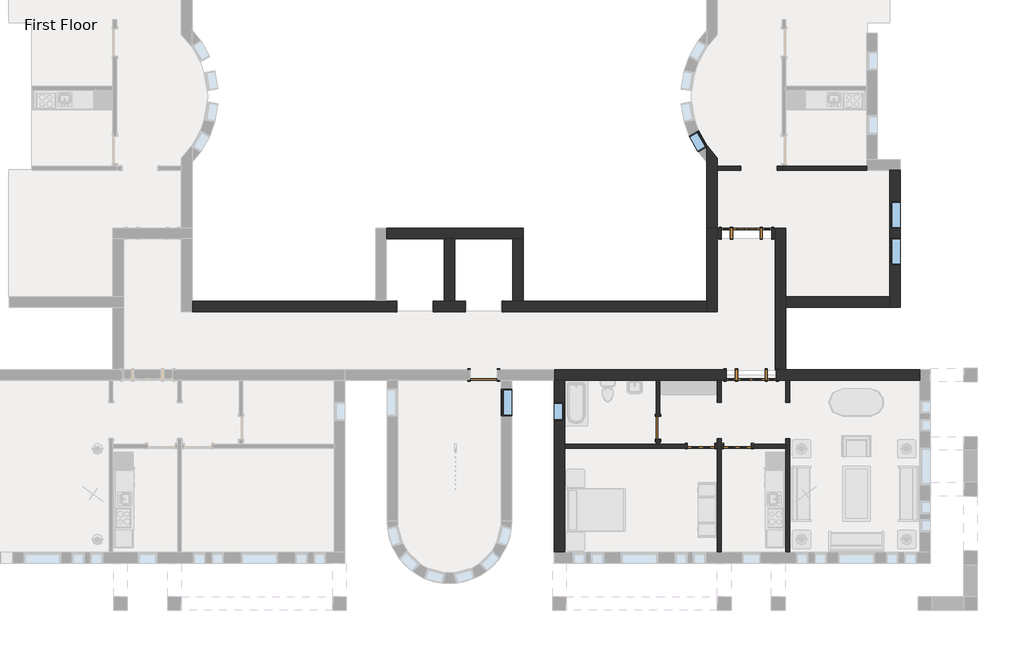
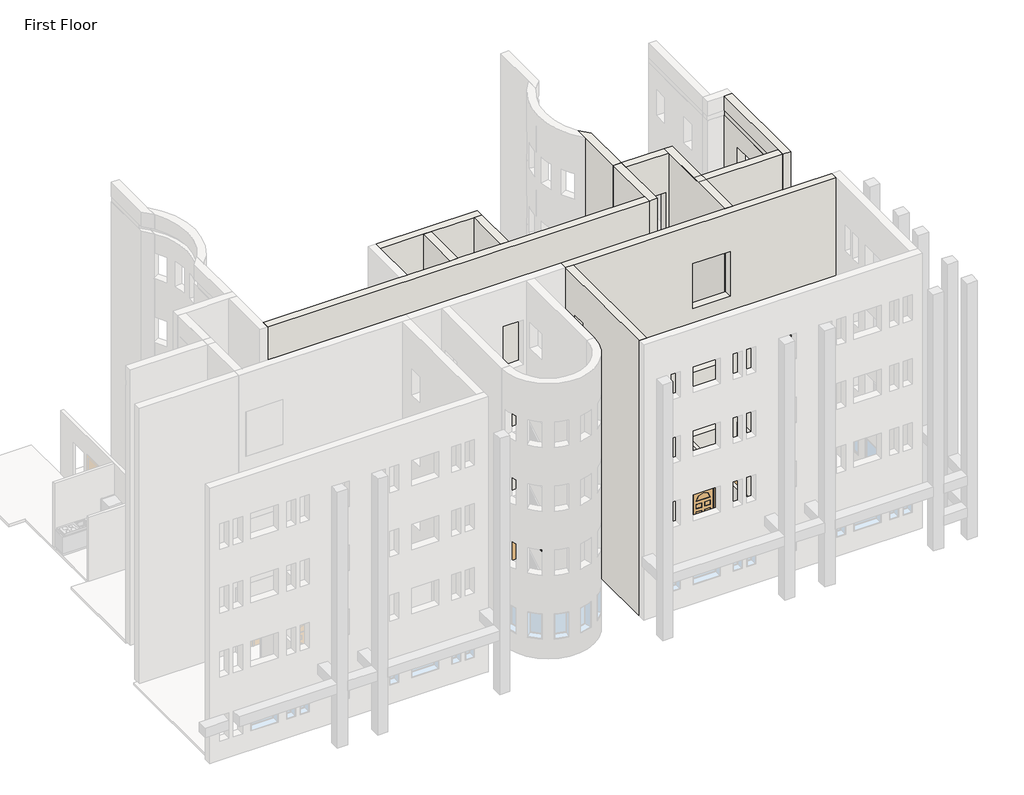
# One storey, part 6 of 23: 20 walls, 6 doors, 5 windows.
"""IFC4 building model written with IfcOpenShell, lengths in millimetres."""

from ifc_helpers import new_model, si_unit, frame, origin, origin_with_axes, place, context, project, spatial, polyline, circle_curve, outline, extrude, faceted_brep, transform, mapped, element, save
from ifc_brep_helpers import plane_surface, revolved_surface, advanced_brep
from components import door_829da954, door_2e3b4da2, door_e36758a9, door_cc5399a4, door_dba5aa2e, door_ffdb1193, window_ed80354a, window_15c49d37, window_0e2fc6ce

model = new_model("IFC4")

# Units and contexts
model_context = context("Model", 3, world=origin())
ifc_project = project(units=[si_unit("LENGTHUNIT", "METRE", prefix="MILLI")], contexts=[model_context])

# Site, building, storey
site = spatial("IfcSite", under=ifc_project)
building = spatial("IfcBuilding", under=site)
storey = spatial("IfcBuildingStorey", under=building, Name="First Floor", Elevation=0.0)

# Doors
placement = place(None, origin())
door_shape = door_829da954(model_context)
element("IfcDoor", 1, ObjectType="Single-Decorative 2 : 36\" x 84\"", at=placement, inside=storey, context=model_context, shape_type="MappedRepresentation", body=[
    mapped(door_shape, transform((-6669.0589563, -30331.8808133, 0.0), x_axis=(1.0, 0.0, 0.0), y_axis=(0.0, 1.0, 0.0), z_axis=(0.0, 0.0, 1.0))),
])
door_2_shape = door_2e3b4da2(model_context)
element("IfcDoor", 2, ObjectType="Single-Decorative 2 : 36\" x 84\"", at=placement, inside=storey, context=model_context, shape_type="MappedRepresentation", body=[
    mapped(door_2_shape, transform((-5449.8589563, -30331.8808133, 0.0), x_axis=(-1.0, 0.0, 0.0), y_axis=(0.0, -1.0, 0.0), z_axis=(0.0, 0.0, 1.0))),
])
door_3_shape = door_e36758a9(model_context)
element("IfcDoor", 3, ObjectType="Single-Flush : 30\" x 84\"", at=placement, inside=storey, context=model_context, shape_type="MappedRepresentation", body=[
    mapped(door_3_shape, transform((-8105.7464563, -29722.2808133, 0.0), x_axis=(0.0, -1.0, 0.0), y_axis=(1.0, 0.0, 0.0), z_axis=(0.0, 0.0, 1.0))),
])
door_4_shape = door_cc5399a4(model_context)
element("IfcDoor", 4, ObjectType="Single-Flush : 36\" x 84\"", at=placement, inside=storey, context=model_context, shape_type="MappedRepresentation", body=[
    mapped(door_4_shape, transform((-13919.1714563, -27958.5683133, 0.0), x_axis=(1.0, 0.0, 0.0), y_axis=(0.0, 1.0, 0.0), z_axis=(0.0, 0.0, 1.0))),
])
door_5_shape = door_dba5aa2e(model_context)
element("IfcDoor", 5, ObjectType="Single-Raised Panel with Sidelights : 36\" x 84\"", at=placement, inside=storey, context=model_context, shape_type="MappedRepresentation", body=[
    mapped(door_5_shape, transform((-5156.1714563, -23234.1683133, 0.0), x_axis=(-1.0, 0.0, 0.0), y_axis=(0.0, -1.0, 0.0), z_axis=(0.0, 0.0, 1.0))),
])
door_6_shape = door_ffdb1193(model_context)
element("IfcDoor", 6, ObjectType="Single-Raised Panel with Sidelights : 36\" x 84\"", at=placement, inside=storey, context=model_context, shape_type="MappedRepresentation", body=[
    mapped(door_6_shape, transform((-4992.6589563, -27958.5683133, 0.0), x_axis=(-1.0, 0.0, 0.0), y_axis=(0.0, -1.0, 0.0), z_axis=(0.0, 0.0, 1.0))),
])

# Walls
element("IfcWall", 7, ObjectType="Exterior - Brick on Mtl. Stud", at=placement, inside=storey, context=model_context, shape_type="Brep", body=[
    faceted_brep([(-5830.8589563, -27782.3558133, 2133.6), (-5830.8589563, -27782.3558133, 0.0), (-11571.2589563, -27782.3558133, 0.0), (-11571.2589563, -27782.3558133, 13106.4), (-4189.3839563, -27782.3558133, 13106.4), (-3836.9589563, -27782.3558133, 13106.4), (622.3285437, -27782.3558133, 13106.4), (622.3285437, -27782.3558133, 0.0), (-3836.9589563, -27782.3558133, 0.0), (-4154.4589563, -27782.3558133, 0.0), (-4154.4589563, -27782.3558133, 2133.6), (-4154.4589563, -27782.3558133, 6096.0), (-4154.4589563, -27782.3558133, 8229.6), (-5830.8589563, -27782.3558133, 8229.6), (-5830.8589563, -27782.3558133, 6096.0), (-4154.4589563, -27782.3558133, 3048.0), (-4154.4589563, -27782.3558133, 5181.6), (-5830.8589563, -27782.3558133, 5181.6), (-5830.8589563, -27782.3558133, 3048.0), (-4154.4589563, -27782.3558133, 9144.0), (-4154.4589563, -27782.3558133, 11277.6), (-5830.8589563, -27782.3558133, 11277.6), (-5830.8589563, -27782.3558133, 9144.0), (-11571.2589563, -28134.7808133, 0.0), (-11569.6714563, -28134.7808133, 0.0), (-11217.2464563, -28134.7808133, 0.0), (-8169.2464563, -28134.7808133, 0.0), (-8042.2464563, -28134.7808133, 0.0), (-6122.9589563, -28134.7808133, 0.0), (-5995.9589563, -28134.7808133, 0.0), (-5830.8589563, -28134.7808133, 0.0), (-5830.8589563, -28134.7808133, 2133.6), (-4154.4589563, -28134.7808133, 2133.6), (-4154.4589563, -28134.7808133, 0.0), (-3836.9589563, -28134.7808133, 0.0), (-3709.9589563, -28134.7808133, 0.0), (622.3285437, -28134.7808133, 0.0), (622.3285437, -28134.7808133, 13106.4), (-11217.2464563, -28134.7808133, 13106.4), (-11569.6714563, -28134.7808133, 13106.4), (-11571.2589563, -28134.7808133, 13106.4), (-4154.4589563, -28134.7808133, 6096.0), (-5830.8589563, -28134.7808133, 6096.0), (-5830.8589563, -28134.7808133, 8229.6), (-4154.4589563, -28134.7808133, 8229.6), (-4154.4589563, -28134.7808133, 3048.0), (-5830.8589563, -28134.7808133, 3048.0), (-5830.8589563, -28134.7808133, 5181.6), (-4154.4589563, -28134.7808133, 5181.6), (-4154.4589563, -28134.7808133, 9144.0), (-5830.8589563, -28134.7808133, 9144.0), (-5830.8589563, -28134.7808133, 11277.6), (-4154.4589563, -28134.7808133, 11277.6)], [[[0, 1, 2, 3, 4, 5, 6, 7, 8, 9, 10], [11, 12, 13, 14], [15, 16, 17, 18], [19, 20, 21, 22]], [[23, 24, 25, 26, 27, 28, 29, 30, 31, 32, 33, 34, 35, 36, 37, 38, 39, 40], [41, 42, 43, 44], [45, 46, 47, 48], [49, 50, 51, 52]], [[2, 1, 30, 29, 28, 27, 26, 25, 24, 23]], [[9, 8, 7, 36, 35, 34, 33]], [[3, 2, 23, 40]], [[6, 5, 4, 3, 40, 39, 38, 37]], [[7, 6, 37, 36]], [[31, 30, 1, 0]], [[32, 31, 0, 10]], [[33, 32, 10, 9]], [[42, 41, 11, 14]], [[43, 42, 14, 13]], [[44, 43, 13, 12]], [[41, 44, 12, 11]], [[46, 45, 15, 18]], [[47, 46, 18, 17]], [[48, 47, 17, 16]], [[45, 48, 16, 15]], [[50, 49, 19, 22]], [[51, 50, 22, 21]], [[52, 51, 21, 20]], [[49, 52, 20, 19]]]),
])
element("IfcWall", 8, ObjectType="Exterior - Brick on Mtl. Stud", at=placement, inside=storey, context=model_context, shape_type="Brep", body=[
    faceted_brep([(-11569.6714563, -28134.7808133, 0.0), (-11569.6714563, -33878.3558133, 0.0), (-11569.6714563, -33878.3558133, 13106.4), (-11569.6714563, -28134.7808133, 13106.4), (-11569.6714563, -28872.9683133, 8229.6), (-11569.6714563, -29482.5683133, 8229.6), (-11569.6714563, -29482.5683133, 7010.4), (-11569.6714563, -28872.9683133, 7010.4), (-11569.6714563, -28872.9683133, 5181.6), (-11569.6714563, -29482.5683133, 5181.6), (-11569.6714563, -29482.5683133, 3962.4), (-11569.6714563, -28872.9683133, 3962.4), (-11569.6714563, -28872.9683133, 11277.6), (-11569.6714563, -29482.5683133, 11277.6), (-11569.6714563, -29482.5683133, 10058.4), (-11569.6714563, -28872.9683133, 10058.4), (-11569.6714563, -28872.9683133, 2133.6), (-11569.6714563, -29482.5683133, 2133.6), (-11569.6714563, -29482.5683133, 914.4), (-11569.6714563, -28872.9683133, 914.4), (-11217.2464563, -28134.7808133, 0.0), (-11217.2464563, -28134.7808133, 13106.4), (-11217.2464563, -33878.3558133, 13106.4), (-11217.2464563, -33878.3558133, 0.0), (-11217.2464563, -30395.3808133, 0.0), (-11217.2464563, -30268.3808133, 0.0), (-11217.2464563, -28872.9683133, 8229.6), (-11217.2464563, -28872.9683133, 7010.4), (-11217.2464563, -29482.5683133, 7010.4), (-11217.2464563, -29482.5683133, 8229.6), (-11217.2464563, -28872.9683133, 5181.6), (-11217.2464563, -28872.9683133, 3962.4), (-11217.2464563, -29482.5683133, 3962.4), (-11217.2464563, -29482.5683133, 5181.6), (-11217.2464563, -28872.9683133, 11277.6), (-11217.2464563, -28872.9683133, 10058.4), (-11217.2464563, -29482.5683133, 10058.4), (-11217.2464563, -29482.5683133, 11277.6), (-11217.2464563, -28872.9683133, 2133.6), (-11217.2464563, -28872.9683133, 914.4), (-11217.2464563, -29482.5683133, 914.4), (-11217.2464563, -29482.5683133, 2133.6), (-11382.3464563, -28134.7808133, 0.0), (-11382.3464563, -33878.3558133, 0.0)], [[[0, 1, 2, 3], [4, 5, 6, 7], [8, 9, 10, 11], [12, 13, 14, 15], [16, 17, 18, 19]], [[20, 21, 22, 23, 24, 25], [26, 27, 28, 29], [30, 31, 32, 33], [34, 35, 36, 37], [38, 39, 40, 41]], [[3, 2, 22, 21]], [[0, 3, 21, 20, 42]], [[2, 1, 43, 23, 22]], [[1, 0, 42, 43]], [[42, 20, 25, 24, 23, 43]], [[27, 26, 4, 7]], [[28, 27, 7, 6]], [[29, 28, 6, 5]], [[26, 29, 5, 4]], [[31, 30, 8, 11]], [[32, 31, 11, 10]], [[33, 32, 10, 9]], [[30, 33, 9, 8]], [[35, 34, 12, 15]], [[36, 35, 15, 14]], [[37, 36, 14, 13]], [[34, 37, 13, 12]], [[39, 38, 16, 19]], [[40, 39, 19, 18]], [[41, 40, 18, 17]], [[38, 41, 17, 16]]]),
])
element("IfcWall", 9, ObjectType="Exterior - Brick on Mtl. Stud", at=placement, inside=storey, context=model_context, shape_type="Brep", body=[
    faceted_brep([(-17171.9589563, -23410.3808133, 0.0), (-15238.3839563, -23410.3808133, 0.0), (-14885.9589563, -23410.3808133, 0.0), (-12952.3839563, -23410.3808133, 0.0), (-12599.9589563, -23410.3808133, 0.0), (-12599.9589563, -23410.3808133, 13106.4), (-12952.3839563, -23410.3808133, 13106.4), (-14885.9589563, -23410.3808133, 13106.4), (-15238.3839563, -23410.3808133, 13106.4), (-17171.9589563, -23410.3808133, 13106.4), (-17171.9589563, -23057.9558133, 0.0), (-17171.9589563, -23057.9558133, 13106.4), (-12599.9589563, -23057.9558133, 13106.4), (-12599.9589563, -23057.9558133, 0.0)], [[[0, 1, 2, 3, 4, 5, 6, 7, 8, 9]], [[10, 11, 12, 13]], [[4, 3, 2, 1, 0, 10, 13]], [[9, 8, 7, 6, 5, 12, 11]], [[5, 4, 13, 12]], [[0, 9, 11, 10]]]),
])
element("IfcWall", 10, ObjectType="Exterior - Brick on Mtl. Stud", at=placement, inside=storey, context=model_context, shape_type="SweptSolid", body=[
    extrude(outline(polyline([(-12952.3839563, -25496.3558133), (-12952.3839563, -23410.3808133), (-12599.9589563, -23410.3808133), (-12599.9589563, -25496.3558133), (-12952.3839563, -25496.3558133)])), origin_with_axes(), (0.0, 0.0, 1.0), 13106.4),
])
element("IfcWall", 11, ObjectType="Exterior - Brick on Mtl. Stud", at=placement, inside=storey, context=model_context, shape_type="Brep", body=[
    faceted_brep([(-15595.5714563, -25848.7808133, 0.0), (-14528.7714563, -25848.7808133, 0.0), (-14528.7714563, -25848.7808133, 2133.6), (-13309.5714563, -25848.7808133, 2133.6), (-13309.5714563, -25848.7808133, 0.0), (-6475.3839563, -25848.7808133, 0.0), (-6475.3839563, -25848.7808133, 13106.4), (-23648.9589563, -25848.7808133, 13106.4), (-23648.9589563, -25848.7808133, 0.0), (-16814.7714563, -25848.7808133, 0.0), (-16814.7714563, -25848.7808133, 2133.6), (-15595.5714563, -25848.7808133, 2133.6), (-13309.5714563, -25848.7808133, 8229.6), (-13309.5714563, -25848.7808133, 6096.0), (-14528.7714563, -25848.7808133, 6096.0), (-14528.7714563, -25848.7808133, 8229.6), (-15595.5714563, -25848.7808133, 8229.6), (-15595.5714563, -25848.7808133, 6096.0), (-16814.7714563, -25848.7808133, 6096.0), (-16814.7714563, -25848.7808133, 8229.6), (-13309.5714563, -25848.7808133, 5181.6), (-13309.5714563, -25848.7808133, 3048.0), (-14528.7714563, -25848.7808133, 3048.0), (-14528.7714563, -25848.7808133, 5181.6), (-15595.5714563, -25848.7808133, 5181.6), (-15595.5714563, -25848.7808133, 3048.0), (-16814.7714563, -25848.7808133, 3048.0), (-16814.7714563, -25848.7808133, 5181.6), (-13309.5714563, -25848.7808133, 11277.6), (-13309.5714563, -25848.7808133, 9144.0), (-14528.7714563, -25848.7808133, 9144.0), (-14528.7714563, -25848.7808133, 11277.6), (-15595.5714563, -25848.7808133, 11277.6), (-15595.5714563, -25848.7808133, 9144.0), (-16814.7714563, -25848.7808133, 9144.0), (-16814.7714563, -25848.7808133, 11277.6), (-14528.7714563, -25496.3558133, 2133.6), (-14528.7714563, -25496.3558133, 0.0), (-14885.9589563, -25496.3558133, 0.0), (-15238.3839563, -25496.3558133, 0.0), (-15595.5714563, -25496.3558133, 0.0), (-15595.5714563, -25496.3558133, 2133.6), (-16814.7714563, -25496.3558133, 2133.6), (-16814.7714563, -25496.3558133, 0.0), (-17171.9589563, -25496.3558133, 0.0), (-17524.3839563, -25496.3558133, 0.0), (-23648.9589563, -25496.3558133, 0.0), (-23648.9589563, -25496.3558133, 13106.4), (-17524.3839563, -25496.3558133, 13106.4), (-17171.9589563, -25496.3558133, 13106.4), (-15238.3839563, -25496.3558133, 13106.4), (-14885.9589563, -25496.3558133, 13106.4), (-12952.3839563, -25496.3558133, 13106.4), (-12599.9589563, -25496.3558133, 13106.4), (-6475.3839563, -25496.3558133, 13106.4), (-6475.3839563, -25496.3558133, 0.0), (-12599.9589563, -25496.3558133, 0.0), (-12952.3839563, -25496.3558133, 0.0), (-13309.5714563, -25496.3558133, 0.0), (-13309.5714563, -25496.3558133, 2133.6), (-13309.5714563, -25496.3558133, 8229.6), (-14528.7714563, -25496.3558133, 8229.6), (-14528.7714563, -25496.3558133, 6096.0), (-13309.5714563, -25496.3558133, 6096.0), (-15595.5714563, -25496.3558133, 8229.6), (-16814.7714563, -25496.3558133, 8229.6), (-16814.7714563, -25496.3558133, 6096.0), (-15595.5714563, -25496.3558133, 6096.0), (-13309.5714563, -25496.3558133, 5181.6), (-14528.7714563, -25496.3558133, 5181.6), (-14528.7714563, -25496.3558133, 3048.0), (-13309.5714563, -25496.3558133, 3048.0), (-15595.5714563, -25496.3558133, 5181.6), (-16814.7714563, -25496.3558133, 5181.6), (-16814.7714563, -25496.3558133, 3048.0), (-15595.5714563, -25496.3558133, 3048.0), (-13309.5714563, -25496.3558133, 11277.6), (-14528.7714563, -25496.3558133, 11277.6), (-14528.7714563, -25496.3558133, 9144.0), (-13309.5714563, -25496.3558133, 9144.0), (-15595.5714563, -25496.3558133, 11277.6), (-16814.7714563, -25496.3558133, 11277.6), (-16814.7714563, -25496.3558133, 9144.0), (-15595.5714563, -25496.3558133, 9144.0)], [[[0, 1, 2, 3, 4, 5, 6, 7, 8, 9, 10, 11], [12, 13, 14, 15], [16, 17, 18, 19], [20, 21, 22, 23], [24, 25, 26, 27], [28, 29, 30, 31], [32, 33, 34, 35]], [[36, 37, 38, 39, 40, 41, 42, 43, 44, 45, 46, 47, 48, 49, 50, 51, 52, 53, 54, 55, 56, 57, 58, 59], [60, 61, 62, 63], [64, 65, 66, 67], [68, 69, 70, 71], [72, 73, 74, 75], [76, 77, 78, 79], [80, 81, 82, 83]], [[46, 45, 44, 43, 9, 8]], [[40, 39, 38, 37, 1, 0]], [[58, 57, 56, 55, 5, 4]], [[7, 6, 54, 53, 52, 51, 50, 49, 48, 47]], [[6, 5, 55, 54]], [[8, 7, 47, 46]], [[0, 11, 41, 40]], [[10, 9, 43, 42]], [[11, 10, 42, 41]], [[4, 3, 59, 58]], [[2, 1, 37, 36]], [[3, 2, 36, 59]], [[13, 12, 60, 63]], [[14, 13, 63, 62]], [[15, 14, 62, 61]], [[12, 15, 61, 60]], [[17, 16, 64, 67]], [[18, 17, 67, 66]], [[19, 18, 66, 65]], [[16, 19, 65, 64]], [[21, 20, 68, 71]], [[22, 21, 71, 70]], [[23, 22, 70, 69]], [[20, 23, 69, 68]], [[25, 24, 72, 75]], [[26, 25, 75, 74]], [[27, 26, 74, 73]], [[24, 27, 73, 72]], [[29, 28, 76, 79]], [[30, 29, 79, 78]], [[31, 30, 78, 77]], [[28, 31, 77, 76]], [[33, 32, 80, 83]], [[34, 33, 83, 82]], [[35, 34, 82, 81]], [[32, 35, 81, 80]]]),
])
element("IfcWall", 12, ObjectType="Exterior - Brick on Mtl. Stud", at=placement, inside=storey, context=model_context, shape_type="SweptSolid", body=[
    extrude(outline(polyline([(-15238.3839563, -25496.3558133), (-15238.3839563, -23410.3808133), (-14885.9589563, -23410.3808133), (-14885.9589563, -25496.3558133), (-15238.3839563, -25496.3558133)])), origin_with_axes(), (0.0, 0.0, 1.0), 13106.4),
])
element("IfcWall", 13, ObjectType="Exterior - Brick on Mtl. Stud", at=placement, inside=storey, context=model_context, shape_type="Brep", body=[
    faceted_brep([(-6122.9589563, -25848.7808133, 0.0), (-6122.9589563, -23410.3808133, 0.0), (-6122.9589563, -23057.9558133, 0.0), (-6122.9589563, -23057.9558133, 12192.0), (-6122.9589563, -23057.9558133, 12420.6), (-6122.9589563, -23057.9558133, 13106.4), (-6122.9589563, -23410.3808133, 13106.4), (-6122.9589563, -25848.7808133, 13106.4), (-6475.3839563, -25848.7808133, 0.0), (-6475.3839563, -25848.7808133, 13106.4), (-6475.3839563, -25496.3558133, 13106.4), (-6475.3839563, -23057.9558133, 13106.4), (-6475.3839563, -23057.9558133, 0.0), (-6475.3839563, -25496.3558133, 0.0)], [[[0, 1, 2, 3, 4, 5, 6, 7]], [[8, 9, 10, 11, 12, 13]], [[2, 1, 0, 8, 13, 12]], [[7, 6, 5, 11, 10, 9]], [[0, 7, 9, 8]], [[5, 4, 3, 2, 12, 11]]]),
])
element("IfcWall", 14, ObjectType="Exterior - Brick on Mtl. Stud", at=placement, inside=storey, context=model_context, shape_type="Brep", body=[
    faceted_brep([(-4189.3839563, -23057.9558133, 0.0), (-4189.3839563, -23410.3808133, 0.0), (-4189.3839563, -27782.3558133, 0.0), (-4189.3839563, -27782.3558133, 13106.4), (-4189.3839563, -23410.3808133, 13106.4), (-4189.3839563, -23057.9558133, 13106.4), (-4189.3839563, -23057.9558133, 12420.6), (-4189.3839563, -23057.9558133, 12192.0), (-3836.9589563, -23057.9558133, 0.0), (-3836.9589563, -23057.9558133, 13106.4), (-3836.9589563, -27782.3558133, 13106.4), (-3836.9589563, -27782.3558133, 0.0), (-4154.4589563, -27782.3558133, 0.0)], [[[0, 1, 2, 3, 4, 5, 6, 7]], [[8, 9, 10, 11]], [[2, 1, 0, 8, 11, 12]], [[5, 4, 3, 10, 9]], [[0, 7, 6, 5, 9, 8]], [[3, 2, 12, 11, 10]]]),
])
element("IfcWall", 15, ObjectType="Exterior - Brick on Mtl. Stud", at=placement, inside=storey, context=model_context, shape_type="Brep", body=[
    faceted_brep([(-379.3839563, -25343.9558133, 0.0), (-3836.9589563, -25343.9558133, 0.0), (-4189.3839563, -25343.9558133, 0.0), (-4189.3839563, -25343.9558133, 13106.4), (-3836.9589563, -25343.9558133, 13106.4), (-379.3839563, -25343.9558133, 13106.4), (-379.3839563, -25343.9558133, 12420.6), (-3836.9589563, -25343.9558133, 12420.6), (-3849.6589563, -25343.9558133, 12420.6), (-3849.6589563, -25343.9558133, 12192.0), (-3836.9589563, -25343.9558133, 12192.0), (-379.3839563, -25343.9558133, 12192.0), (-4189.3839563, -25696.3808133, 0.0), (-379.3839563, -25696.3808133, 0.0), (-379.3839563, -25696.3808133, 13106.4), (-4189.3839563, -25696.3808133, 13106.4), (-379.3839563, -25356.6558133, 12192.0), (-379.3839563, -25356.6558133, 12420.6), (-3849.6589563, -25356.6558133, 12192.0), (-3849.6589563, -25356.6558133, 12420.6)], [[[0, 1, 2, 3, 4, 5, 6, 7, 8, 9, 10, 11]], [[12, 13, 14, 15]], [[2, 1, 0, 13, 12]], [[5, 4, 3, 15, 14]], [[3, 2, 12, 15]], [[5, 14, 13, 0, 11, 16, 17, 6]], [[9, 18, 16, 11, 10]], [[17, 19, 8, 7, 6]], [[18, 19, 17, 16]], [[19, 18, 9, 8]]]),
])
element("IfcWall", 16, ObjectType="Exterior - Brick on Mtl. Stud", at=placement, inside=storey, context=model_context, shape_type="Brep", body=[
    faceted_brep([(-3836.9589563, -25343.9558133, 0.0), (-3836.9589563, -23057.9558133, 0.0), (-3836.9589563, -23057.9558133, 12192.0), (-3836.9589563, -25343.9558133, 12192.0), (-3836.9589563, -23057.9558133, 13106.4), (-3836.9589563, -25343.9558133, 13106.4), (-3836.9589563, -25343.9558133, 12420.6), (-3836.9589563, -23057.9558133, 12420.6), (-4189.3839563, -23057.9558133, 0.0), (-4189.3839563, -23410.3808133, 0.0), (-4189.3839563, -25343.9558133, 0.0), (-4189.3839563, -25343.9558133, 13106.4), (-4189.3839563, -23410.3808133, 13106.4), (-4189.3839563, -23057.9558133, 13106.4), (-4189.3839563, -23057.9558133, 12420.6), (-4189.3839563, -23070.6558133, 12420.6), (-4189.3839563, -23070.6558133, 12192.0), (-4189.3839563, -23057.9558133, 12192.0), (-3849.6589563, -25343.9558133, 12192.0), (-3849.6589563, -25343.9558133, 12420.6), (-3849.6589563, -23070.6558133, 12192.0), (-3849.6589563, -23070.6558133, 12420.6)], [[[0, 1, 2, 3]], [[4, 5, 6, 7]], [[8, 9, 10, 11, 12, 13, 14, 15, 16, 17]], [[1, 0, 10, 9, 8]], [[5, 4, 13, 12, 11]], [[5, 11, 10, 0, 3, 18, 19, 6]], [[1, 8, 17, 2]], [[13, 4, 7, 14]], [[16, 20, 18, 3, 2, 17]], [[19, 21, 15, 14, 7, 6]], [[20, 21, 19, 18]], [[21, 20, 16, 15]]]),
])
element("IfcWall", 17, ObjectType="Exterior - Brick on Mtl. Stud", at=placement, inside=storey, context=model_context, shape_type="Brep", body=[
    faceted_brep([(-6122.9589563, -23057.9558133, 13106.4), (-4189.3839563, -23057.9558133, 13106.4), (-4189.3839563, -23057.9558133, 12420.6), (-6122.9589563, -23057.9558133, 12420.6), (-5994.3714563, -23057.9558133, 2133.6), (-5994.3714563, -23057.9558133, 0.0), (-6122.9589563, -23057.9558133, 0.0), (-6122.9589563, -23057.9558133, 12192.0), (-4189.3839563, -23057.9558133, 12192.0), (-4189.3839563, -23057.9558133, 0.0), (-4317.9714563, -23057.9558133, 0.0), (-4317.9714563, -23057.9558133, 2133.6), (-5994.3714563, -23057.9558133, 6096.0), (-4317.9714563, -23057.9558133, 6096.0), (-4317.9714563, -23057.9558133, 8229.6), (-5994.3714563, -23057.9558133, 8229.6), (-5994.3714563, -23057.9558133, 3048.0), (-4317.9714563, -23057.9558133, 3048.0), (-4317.9714563, -23057.9558133, 5181.6), (-5994.3714563, -23057.9558133, 5181.6), (-5994.3714563, -23057.9558133, 9144.0), (-4317.9714563, -23057.9558133, 9144.0), (-4317.9714563, -23057.9558133, 11277.6), (-5994.3714563, -23057.9558133, 11277.6), (-4189.3839563, -23410.3808133, 13106.4), (-6122.9589563, -23410.3808133, 13106.4), (-6122.9589563, -23410.3808133, 0.0), (-5994.3714563, -23410.3808133, 0.0), (-5994.3714563, -23410.3808133, 2133.6), (-4317.9714563, -23410.3808133, 2133.6), (-4317.9714563, -23410.3808133, 0.0), (-4189.3839563, -23410.3808133, 0.0), (-4317.9714563, -23410.3808133, 6096.0), (-5994.3714563, -23410.3808133, 6096.0), (-5994.3714563, -23410.3808133, 8229.6), (-4317.9714563, -23410.3808133, 8229.6), (-4317.9714563, -23410.3808133, 3048.0), (-5994.3714563, -23410.3808133, 3048.0), (-5994.3714563, -23410.3808133, 5181.6), (-4317.9714563, -23410.3808133, 5181.6), (-4317.9714563, -23410.3808133, 9144.0), (-5994.3714563, -23410.3808133, 9144.0), (-5994.3714563, -23410.3808133, 11277.6), (-4317.9714563, -23410.3808133, 11277.6), (-4189.3839563, -23070.6558133, 12192.0), (-4189.3839563, -23070.6558133, 12420.6), (-6122.9589563, -23070.6558133, 12420.6), (-6122.9589563, -23070.6558133, 12192.0)], [[[0, 1, 2, 3]], [[4, 5, 6, 7, 8, 9, 10, 11], [12, 13, 14, 15], [16, 17, 18, 19], [20, 21, 22, 23]], [[24, 25, 26, 27, 28, 29, 30, 31], [32, 33, 34, 35], [36, 37, 38, 39], [40, 41, 42, 43]], [[9, 31, 30, 10]], [[26, 6, 5, 27]], [[1, 0, 25, 24]], [[1, 24, 31, 9, 8, 44, 45, 2]], [[6, 26, 25, 0, 3, 46, 47, 7]], [[28, 27, 5, 4]], [[29, 28, 4, 11]], [[30, 29, 11, 10]], [[33, 32, 13, 12]], [[34, 33, 12, 15]], [[35, 34, 15, 14]], [[32, 35, 14, 13]], [[37, 36, 17, 16]], [[38, 37, 16, 19]], [[39, 38, 19, 18]], [[36, 39, 18, 17]], [[41, 40, 21, 20]], [[42, 41, 20, 23]], [[43, 42, 23, 22]], [[40, 43, 22, 21]], [[47, 44, 8, 7]], [[45, 46, 3, 2]], [[44, 47, 46, 45]]]),
])
element("IfcWall", 18, ObjectType="Exterior - Brick on Mtl. Stud", at=placement, inside=storey, context=model_context, shape_type="AdvancedBrep", body=[
    advanced_brep(
    [(-6122.9589563, -23057.9558133, 0.0), (-6122.9589563, -21124.3808133, 0.0), (-6122.9589563, -20997.3808133, 0.0), (-6122.9589563, -20722.552661, 0.0), (-6122.9589563, -20722.552661, 12192.0), (-6122.9589563, -20997.3808133, 12192.0), (-6122.9589563, -21124.3808133, 12192.0), (-6122.9589563, -23057.9558133, 12192.0), (-6122.9589563, -20722.552661, 13106.4), (-6122.9589563, -23057.9558133, 13106.4), (-6122.9589563, -23057.9558133, 12420.6), (-6122.9589563, -20722.552661, 12420.6), (-6475.3839563, -20308.6589631, 0.0), (-6475.3839563, -20866.5535473, 0.0), (-6475.3839563, -23057.9558133, 0.0), (-6475.3839563, -23057.9558133, 13106.4), (-6475.3839563, -20866.5535473, 13106.4), (-6475.3839563, -20308.6589631, 13106.4), (-6475.3839563, -20308.6589631, 12420.6), (-6475.3839563, -20617.1458841, 12420.6), (-6475.3839563, -20617.1458841, 12192.0), (-6475.3839563, -20308.6589631, 12192.0), (-6475.3839563, -20308.6589631, 11277.6), (-6475.3839563, -20357.947211, 11277.6), (-6475.3839563, -20357.947211, 10058.4), (-6475.3839563, -20308.6589631, 10058.4), (-6475.3839563, -20308.6589631, 8229.6), (-6475.3839563, -20357.947211, 8229.6), (-6475.3839563, -20357.947211, 7010.4), (-6475.3839563, -20308.6589631, 7010.4), (-6475.3839563, -20308.6589631, 5181.6), (-6475.3839563, -20357.947211, 5181.6), (-6475.3839563, -20357.947211, 3962.4), (-6475.3839563, -20308.6589631, 3962.4), (-6475.3839563, -20308.6589631, 2133.6), (-6475.3839563, -20357.947211, 2133.6), (-6475.3839563, -20357.947211, 914.4), (-6475.3839563, -20308.6589631, 914.4), (-6469.8279046, -20316.5704649, 914.4), (-6469.8279046, -20316.5704649, 2133.6), (-6469.8279046, -20316.5704649, 3962.4), (-6469.8279046, -20316.5704649, 5181.6), (-6469.8279046, -20316.5704649, 7010.4), (-6469.8279046, -20316.5704649, 8229.6), (-6469.8279046, -20316.5704649, 10058.4), (-6469.8279046, -20316.5704649, 11277.6), (-6135.6589563, -23057.9558133, 12192.0), (-6135.6589563, -23057.9558133, 12420.6), (-6453.370745, -20345.3664793, 914.4), (-6453.370745, -20345.3664793, 2133.6), (-6453.370745, -20345.3664793, 10058.4), (-6453.370745, -20345.3664793, 11277.6), (-6453.370745, -20345.3664793, 3962.4), (-6453.370745, -20345.3664793, 5181.6), (-6453.370745, -20345.3664793, 7010.4), (-6453.370745, -20345.3664793, 8229.6), (-6135.6589563, -20965.4736866, 12192.0), (-6135.6589563, -20965.4736866, 12420.6)],
    [
        (0, 1),
        (1, 2),
        (2, 3),
        (3, 4),
        (4, 5),
        (5, 6),
        (6, 7),
        (7, 0),
        (8, 9),
        (9, 10),
        (10, 11),
        (11, 8),
        (12, 13),
        (13, 14),
        (14, 15),
        (15, 16),
        (16, 17),
        (17, 18),
        (18, 19),
        (19, 20),
        (20, 21),
        (21, 22),
        (22, 23),
        (23, 24),
        (24, 25),
        (25, 26),
        (26, 27),
        (27, 28),
        (28, 29),
        (29, 30),
        (30, 31),
        (31, 32),
        (32, 33),
        (33, 34),
        (34, 35),
        (35, 36),
        (36, 37),
        (37, 12),
        (0, 14),
        (12, 3, circle_curve(frame((-4122.4640713, -18662.1683133, 0.0), z_axis=(0.0, 0.0, 1.0), x_axis=(0.0, -1.0, 0.0)), 2871.7875)),
        (8, 17, circle_curve(frame((-4122.4640713, -18662.1683133, 13106.4), z_axis=(0.0, 0.0, -1.0), x_axis=(0.0, -1.0, 0.0)), 2871.7875)),
        (15, 9),
        (37, 38, circle_curve(frame((-4122.4640713, -18662.1683133, 914.4), z_axis=(0.0, 0.0, 1.0), x_axis=(0.0, -1.0, 0.0)), 2871.7875)),
        (38, 39),
        (39, 34, circle_curve(frame((-4122.4640713, -18662.1683133, 2133.6), z_axis=(0.0, 0.0, -1.0), x_axis=(0.0, -1.0, 0.0)), 2871.7875)),
        (33, 40, circle_curve(frame((-4122.4640713, -18662.1683133, 3962.4), z_axis=(0.0, 0.0, 1.0), x_axis=(0.0, -1.0, 0.0)), 2871.7875)),
        (40, 41),
        (41, 30, circle_curve(frame((-4122.4640713, -18662.1683133, 5181.6), z_axis=(0.0, 0.0, -1.0), x_axis=(0.0, -1.0, 0.0)), 2871.7875)),
        (29, 42, circle_curve(frame((-4122.4640713, -18662.1683133, 7010.4), z_axis=(0.0, 0.0, 1.0), x_axis=(0.0, -1.0, 0.0)), 2871.7875)),
        (42, 43),
        (43, 26, circle_curve(frame((-4122.4640713, -18662.1683133, 8229.6), z_axis=(0.0, 0.0, -1.0), x_axis=(0.0, -1.0, 0.0)), 2871.7875)),
        (25, 44, circle_curve(frame((-4122.4640713, -18662.1683133, 10058.4), z_axis=(0.0, 0.0, 1.0), x_axis=(0.0, -1.0, 0.0)), 2871.7875)),
        (44, 45),
        (45, 22, circle_curve(frame((-4122.4640713, -18662.1683133, 11277.6), z_axis=(0.0, 0.0, -1.0), x_axis=(0.0, -1.0, 0.0)), 2871.7875)),
        (21, 4, circle_curve(frame((-4122.4640713, -18662.1683133, 12192.0), z_axis=(0.0, 0.0, 1.0), x_axis=(0.0, -1.0, 0.0)), 2871.7875)),
        (11, 18, circle_curve(frame((-4122.4640713, -18662.1683133, 12420.6), z_axis=(0.0, 0.0, -1.0), x_axis=(0.0, -1.0, 0.0)), 2871.7875)),
        (7, 46),
        (46, 47),
        (47, 10),
        (48, 49),
        (49, 39),
        (38, 48),
        (36, 48),
        (35, 49),
        (50, 51),
        (51, 45),
        (44, 50),
        (24, 50),
        (23, 51),
        (52, 53),
        (53, 41),
        (40, 52),
        (32, 52),
        (31, 53),
        (54, 55),
        (55, 43),
        (42, 54),
        (28, 54),
        (27, 55),
        (20, 56, circle_curve(frame((-4122.4640713, -18662.1683133, 12192.0), z_axis=(0.0, 0.0, 1.0), x_axis=(0.0, -1.0, 0.0)), 3059.1125)),
        (56, 46),
        (47, 57),
        (57, 19, circle_curve(frame((-4122.4640713, -18662.1683133, 12420.6), z_axis=(0.0, 0.0, -1.0), x_axis=(0.0, -1.0, 0.0)), 3059.1125)),
        (56, 57),
    ],
    [
        plane_surface(frame((-6122.9589563, -23234.1683133, 0.0), z_axis=(1.0, 0.0, 0.0), x_axis=(0.0, 1.0, 0.0))),
        plane_surface(frame((-6475.3839563, -23234.1683133, 0.0), z_axis=(-1.0, 0.0, 0.0), x_axis=(0.0, -1.0, 0.0))),
        plane_surface(frame((-6122.9589563, -23234.1683133, 0.0), z_axis=(0.0, 0.0, -1.0), x_axis=(-1.0, 0.0, 0.0))),
        plane_surface(frame((-6122.9589563, -20795.7683133, 13106.4), z_axis=(0.0, 0.0, 1.0), x_axis=(-1.0, 0.0, 0.0))),
        revolved_surface(polyline([(-4122.4640713, -21533.9558133, 0.0), (-4122.4640713, -21533.9558133, 12192.0)]), (-4122.4640713, -18662.1683133, 0.0), (0.0, 0.0, -1.0)),
        revolved_surface(polyline([(-4122.4640713, -21533.9558133, 12420.6), (-4122.4640713, -21533.9558133, 13106.4)]), (-4122.4640713, -18662.1683133, 0.0), (0.0, 0.0, -1.0)),
        plane_surface(frame((-4013.1714563, -23057.9558133, 0.0), z_axis=(0.0, -1.0, 0.0), x_axis=(-1.0, 0.0, 0.0))),
        plane_surface(frame((-6755.8488292, -19816.1036253, 2133.6), z_axis=(-0.868213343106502, -0.4961910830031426, 0.0), x_axis=(0.0, 0.0, 1.0))),
        plane_surface(frame((-7060.4570928, -19990.1897592, 914.4), z_axis=(0.0, 0.0, 1.0), x_axis=(0.8682133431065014, 0.49619108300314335, 0.0))),
        plane_surface(frame((-6757.9790086, -20519.4526131, 914.4), z_axis=(-0.49619108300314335, 0.8682133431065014, 0.0), x_axis=(0.8682133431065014, 0.49619108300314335, 0.0))),
        plane_surface(frame((-6757.9790086, -20519.4526131, 2133.6), z_axis=(0.0, 0.0, -1.0), x_axis=(0.8682133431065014, 0.49619108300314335, 0.0))),
        plane_surface(frame((-6755.8488292, -19816.1036253, 11277.6), z_axis=(-0.8682133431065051, -0.49619108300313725, 0.0), x_axis=(0.0, 0.0, 1.0))),
        plane_surface(frame((-7060.4570928, -19990.1897592, 10058.4), z_axis=(0.0, 0.0, 1.0), x_axis=(0.8682133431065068, 0.4961910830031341, 0.0))),
        plane_surface(frame((-6757.9790086, -20519.4526131, 10058.4), z_axis=(-0.4961910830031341, 0.8682133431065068, 0.0), x_axis=(0.8682133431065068, 0.4961910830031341, 0.0))),
        plane_surface(frame((-6757.9790086, -20519.4526131, 11277.6), z_axis=(0.0, 0.0, -1.0), x_axis=(0.8682133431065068, 0.4961910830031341, 0.0))),
        plane_surface(frame((-6755.8488292, -19816.1036253, 5181.6), z_axis=(-0.8682133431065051, -0.49619108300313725, 0.0), x_axis=(0.0, 0.0, 1.0))),
        plane_surface(frame((-7060.4570928, -19990.1897592, 3962.4), z_axis=(0.0, 0.0, 1.0), x_axis=(0.8682133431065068, 0.4961910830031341, 0.0))),
        plane_surface(frame((-6757.9790086, -20519.4526131, 3962.4), z_axis=(-0.4961910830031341, 0.8682133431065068, 0.0), x_axis=(0.8682133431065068, 0.4961910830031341, 0.0))),
        plane_surface(frame((-6757.9790086, -20519.4526131, 5181.6), z_axis=(0.0, 0.0, -1.0), x_axis=(0.8682133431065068, 0.4961910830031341, 0.0))),
        plane_surface(frame((-6755.8488292, -19816.1036253, 8229.6), z_axis=(-0.8682133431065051, -0.49619108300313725, 0.0), x_axis=(0.0, 0.0, 1.0))),
        plane_surface(frame((-7060.4570928, -19990.1897592, 7010.4), z_axis=(0.0, 0.0, 1.0), x_axis=(0.8682133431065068, 0.4961910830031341, 0.0))),
        plane_surface(frame((-6757.9790086, -20519.4526131, 7010.4), z_axis=(-0.4961910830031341, 0.8682133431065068, 0.0), x_axis=(0.8682133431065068, 0.4961910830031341, 0.0))),
        plane_surface(frame((-6757.9790086, -20519.4526131, 8229.6), z_axis=(0.0, 0.0, -1.0), x_axis=(0.8682133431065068, 0.4961910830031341, 0.0))),
        plane_surface(frame((-366.6839563, -11967.6808133, 12192.0), z_axis=(0.0, 0.0, 1.0), x_axis=(1.0, 0.0, 0.0))),
        plane_surface(frame((-366.6839563, -11967.6808133, 12420.6), z_axis=(0.0, 0.0, -1.0), x_axis=(1.0, 0.0, 0.0))),
        plane_surface(frame((-6135.6589563, -20965.4736866, 12192.0), z_axis=(1.0, 0.0, 0.0), x_axis=(0.0, -1.0, 0.0))),
        revolved_surface(polyline([(-4122.4640713, -21721.2808133, 12420.6), (-4122.4640713, -21721.2808133, 12192.0)]), (-4122.4640713, -18662.1683133, 12192.0), (0.0, 0.0, 1.0)),
    ],
    [
        (0, [[1, 2, 3, 4, 5, 6, 7, 8]]),
        (0, [[9, 10, 11, 12]]),
        (1, [[13, 14, 15, 16, 17, 18, 19, 20, 21, 22, 23, 24, 25, 26, 27, 28, 29, 30, 31, 32, 33, 34, 35, 36, 37, 38]]),
        (2, [[-3, -2, -1, 39, -14, -13, 40]]),
        (3, [[-9, 41, -17, -16, 42]]),
        (4, [[-40, -38, 43, 44, 45, -34, 46, 47, 48, -30, 49, 50, 51, -26, 52, 53, 54, -22, 55, -4]]),
        (5, [[-41, -12, 56, -18]]),
        (6, [[-42, -15, -39, -8, 57, 58, 59, -10]]),
        (7, [[60, 61, -44, 62]]),
        (8, [[63, -62, -43, -37]]),
        (9, [[-60, -63, -36, 64]]),
        (10, [[-64, -35, -45, -61]]),
        (11, [[65, 66, -53, 67]]),
        (12, [[68, -67, -52, -25]]),
        (13, [[-65, -68, -24, 69]]),
        (14, [[-69, -23, -54, -66]]),
        (15, [[70, 71, -47, 72]]),
        (16, [[73, -72, -46, -33]]),
        (17, [[-70, -73, -32, 74]]),
        (18, [[-74, -31, -48, -71]]),
        (19, [[75, 76, -50, 77]]),
        (20, [[78, -77, -49, -29]]),
        (21, [[-75, -78, -28, 79]]),
        (22, [[-79, -27, -51, -76]]),
        (23, [[80, 81, -57, -7, -6, -5, -55, -21]]),
        (24, [[82, 83, -19, -56, -11, -59]]),
        (25, [[84, -82, -58, -81]]),
        (26, [[-84, -80, -20, -83]]),
    ],
),
])
element("IfcWall", 19, ObjectType="Exterior - Brick on Mtl. Stud", at=placement, inside=storey, context=model_context, shape_type="Brep", body=[
    faceted_brep([(-379.3839563, -21124.3808133, 0.0), (-379.3839563, -25343.9558133, 0.0), (-379.3839563, -25696.3808133, 0.0), (-379.3839563, -25696.3808133, 13106.4), (-379.3839563, -25343.9558133, 13106.4), (-379.3839563, -21124.3808133, 13106.4), (-379.3839563, -21124.3808133, 12420.6), (-379.3839563, -25343.9558133, 12420.6), (-379.3839563, -25356.6558133, 12420.6), (-379.3839563, -25356.6558133, 12192.0), (-379.3839563, -25343.9558133, 12192.0), (-379.3839563, -21124.3808133, 12192.0), (-379.3839563, -22167.3683133, 7010.4), (-379.3839563, -22167.3683133, 8229.6), (-379.3839563, -23081.7683133, 8229.6), (-379.3839563, -23081.7683133, 7010.4), (-379.3839563, -23386.5683133, 7010.4), (-379.3839563, -23386.5683133, 8229.6), (-379.3839563, -24300.9683133, 8229.6), (-379.3839563, -24300.9683133, 7010.4), (-379.3839563, -22167.3683133, 3962.4), (-379.3839563, -22167.3683133, 5181.6), (-379.3839563, -23081.7683133, 5181.6), (-379.3839563, -23081.7683133, 3962.4), (-379.3839563, -23386.5683133, 3962.4), (-379.3839563, -23386.5683133, 5181.6), (-379.3839563, -24300.9683133, 5181.6), (-379.3839563, -24300.9683133, 3962.4), (-379.3839563, -22167.3683133, 10058.4), (-379.3839563, -22167.3683133, 11277.6), (-379.3839563, -23081.7683133, 11277.6), (-379.3839563, -23081.7683133, 10058.4), (-379.3839563, -23386.5683133, 10058.4), (-379.3839563, -23386.5683133, 11277.6), (-379.3839563, -24300.9683133, 11277.6), (-379.3839563, -24300.9683133, 10058.4), (-379.3839563, -22167.3683133, 914.4), (-379.3839563, -22167.3683133, 2133.6), (-379.3839563, -23081.7683133, 2133.6), (-379.3839563, -23081.7683133, 914.4), (-379.3839563, -23386.5683133, 914.4), (-379.3839563, -23386.5683133, 2133.6), (-379.3839563, -24300.9683133, 2133.6), (-379.3839563, -24300.9683133, 914.4), (-26.9589563, -25696.3808133, 0.0), (-26.9589563, -21124.3808133, 0.0), (-26.9589563, -21124.3808133, 13106.4), (-26.9589563, -25696.3808133, 13106.4), (-26.9589563, -22167.3683133, 8229.6), (-26.9589563, -22167.3683133, 7010.4), (-26.9589563, -23081.7683133, 7010.4), (-26.9589563, -23081.7683133, 8229.6), (-26.9589563, -23386.5683133, 8229.6), (-26.9589563, -23386.5683133, 7010.4), (-26.9589563, -24300.9683133, 7010.4), (-26.9589563, -24300.9683133, 8229.6), (-26.9589563, -22167.3683133, 5181.6), (-26.9589563, -22167.3683133, 3962.4), (-26.9589563, -23081.7683133, 3962.4), (-26.9589563, -23081.7683133, 5181.6), (-26.9589563, -23386.5683133, 5181.6), (-26.9589563, -23386.5683133, 3962.4), (-26.9589563, -24300.9683133, 3962.4), (-26.9589563, -24300.9683133, 5181.6), (-26.9589563, -22167.3683133, 11277.6), (-26.9589563, -22167.3683133, 10058.4), (-26.9589563, -23081.7683133, 10058.4), (-26.9589563, -23081.7683133, 11277.6), (-26.9589563, -23386.5683133, 11277.6), (-26.9589563, -23386.5683133, 10058.4), (-26.9589563, -24300.9683133, 10058.4), (-26.9589563, -24300.9683133, 11277.6), (-26.9589563, -22167.3683133, 2133.6), (-26.9589563, -22167.3683133, 914.4), (-26.9589563, -23081.7683133, 914.4), (-26.9589563, -23081.7683133, 2133.6), (-26.9589563, -23386.5683133, 2133.6), (-26.9589563, -23386.5683133, 914.4), (-26.9589563, -24300.9683133, 914.4), (-26.9589563, -24300.9683133, 2133.6), (-366.6839563, -21124.3808133, 12192.0), (-366.6839563, -21124.3808133, 12420.6), (-366.6839563, -25356.6558133, 12192.0), (-366.6839563, -25356.6558133, 12420.6)], [[[0, 1, 2, 3, 4, 5, 6, 7, 8, 9, 10, 11], [12, 13, 14, 15], [16, 17, 18, 19], [20, 21, 22, 23], [24, 25, 26, 27], [28, 29, 30, 31], [32, 33, 34, 35], [36, 37, 38, 39], [40, 41, 42, 43]], [[44, 45, 46, 47], [48, 49, 50, 51], [52, 53, 54, 55], [56, 57, 58, 59], [60, 61, 62, 63], [64, 65, 66, 67], [68, 69, 70, 71], [72, 73, 74, 75], [76, 77, 78, 79]], [[2, 1, 0, 45, 44]], [[5, 4, 3, 47, 46]], [[3, 2, 44, 47]], [[5, 46, 45, 0, 11, 80, 81, 6]], [[49, 48, 13, 12]], [[50, 49, 12, 15]], [[51, 50, 15, 14]], [[48, 51, 14, 13]], [[53, 52, 17, 16]], [[54, 53, 16, 19]], [[55, 54, 19, 18]], [[52, 55, 18, 17]], [[57, 56, 21, 20]], [[58, 57, 20, 23]], [[59, 58, 23, 22]], [[56, 59, 22, 21]], [[61, 60, 25, 24]], [[62, 61, 24, 27]], [[63, 62, 27, 26]], [[60, 63, 26, 25]], [[65, 64, 29, 28]], [[66, 65, 28, 31]], [[67, 66, 31, 30]], [[64, 67, 30, 29]], [[69, 68, 33, 32]], [[70, 69, 32, 35]], [[71, 70, 35, 34]], [[68, 71, 34, 33]], [[73, 72, 37, 36]], [[74, 73, 36, 39]], [[75, 74, 39, 38]], [[72, 75, 38, 37]], [[77, 76, 41, 40]], [[78, 77, 40, 43]], [[79, 78, 43, 42]], [[76, 79, 42, 41]], [[9, 82, 80, 11, 10]], [[81, 83, 8, 7, 6]], [[82, 83, 81, 80]], [[83, 82, 9, 8]]]),
])
element("IfcWall", 20, ObjectType="Interior - 5\" Partition (2-hr)", at=placement, inside=storey, context=model_context, shape_type="Brep", body=[
    faceted_brep([(-3709.9589563, -33878.3558133, 0.0), (-3709.9589563, -30092.1683133, 0.0), (-3709.9589563, -30092.1683133, 2133.6), (-3709.9589563, -28872.9683133, 2133.6), (-3709.9589563, -28872.9683133, 0.0), (-3709.9589563, -28134.7808133, 0.0), (-3709.9589563, -28134.7808133, 3048.0), (-3709.9589563, -33878.3558133, 3048.0), (-3836.9589563, -30092.1683133, 2133.6), (-3836.9589563, -30092.1683133, 0.0), (-3836.9589563, -30268.3808133, 0.0), (-3836.9589563, -30395.3808133, 0.0), (-3836.9589563, -33878.3558133, 0.0), (-3836.9589563, -33878.3558133, 3048.0), (-3836.9589563, -30395.3808133, 3048.0), (-3836.9589563, -30268.3808133, 3048.0), (-3836.9589563, -28134.7808133, 3048.0), (-3836.9589563, -28134.7808133, 0.0), (-3836.9589563, -28872.9683133, 0.0), (-3836.9589563, -28872.9683133, 2133.6)], [[[0, 1, 2, 3, 4, 5, 6, 7]], [[8, 9, 10, 11, 12, 13, 14, 15, 16, 17, 18, 19]], [[12, 11, 10, 9, 1, 0]], [[18, 17, 5, 4]], [[7, 6, 16, 15, 14, 13]], [[0, 7, 13, 12]], [[6, 5, 17, 16]], [[4, 3, 19, 18]], [[2, 1, 9, 8]], [[3, 2, 8, 19]]]),
])
element("IfcWall", 21, ObjectType="Interior - 5\" Partition (2-hr)", at=placement, inside=storey, context=model_context, shape_type="Brep", body=[
    faceted_brep([(-5995.9589563, -28872.9683133, 2133.6), (-5995.9589563, -28872.9683133, 0.0), (-5995.9589563, -28134.7808133, 0.0), (-5995.9589563, -28134.7808133, 3048.0), (-5995.9589563, -30268.3808133, 3048.0), (-5995.9589563, -30395.3808133, 3048.0), (-5995.9589563, -33878.3558133, 3048.0), (-5995.9589563, -33878.3558133, 0.0), (-5995.9589563, -30395.3808133, 0.0), (-5995.9589563, -30268.3808133, 0.0), (-5995.9589563, -30092.1683133, 0.0), (-5995.9589563, -30092.1683133, 2133.6), (-6122.9589563, -28134.7808133, 0.0), (-6122.9589563, -28872.9683133, 0.0), (-6122.9589563, -28872.9683133, 2133.6), (-6122.9589563, -30092.1683133, 2133.6), (-6122.9589563, -30092.1683133, 0.0), (-6122.9589563, -30268.3808133, 0.0), (-6122.9589563, -30395.3808133, 0.0), (-6122.9589563, -33878.3558133, 0.0), (-6122.9589563, -33878.3558133, 3048.0), (-6122.9589563, -30395.3808133, 3048.0), (-6122.9589563, -30268.3808133, 3048.0), (-6122.9589563, -28134.7808133, 3048.0)], [[[0, 1, 2, 3, 4, 5, 6, 7, 8, 9, 10, 11]], [[12, 13, 14, 15, 16, 17, 18, 19, 20, 21, 22, 23]], [[2, 1, 13, 12]], [[10, 9, 8, 7, 19, 18, 17, 16]], [[6, 5, 4, 3, 23, 22, 21, 20]], [[7, 6, 20, 19]], [[3, 2, 12, 23]], [[16, 15, 11, 10]], [[14, 13, 1, 0]], [[15, 14, 0, 11]]]),
])
element("IfcWall", 22, ObjectType="Interior - 5\" Partition (2-hr)", at=placement, inside=storey, context=model_context, shape_type="Brep", body=[
    faceted_brep([(-6211.8589563, -30395.3808133, 2133.6), (-6211.8589563, -30395.3808133, 0.0), (-6122.9589563, -30395.3808133, 0.0), (-6122.9589563, -30395.3808133, 3048.0), (-11217.2464563, -30395.3808133, 3048.0), (-11217.2464563, -30395.3808133, 0.0), (-7126.2589563, -30395.3808133, 0.0), (-7126.2589563, -30395.3808133, 2133.6), (-6122.9589563, -30268.3808133, 0.0), (-6211.8589563, -30268.3808133, 0.0), (-6211.8589563, -30268.3808133, 2133.6), (-7126.2589563, -30268.3808133, 2133.6), (-7126.2589563, -30268.3808133, 0.0), (-8042.2464563, -30268.3808133, 0.0), (-8169.2464563, -30268.3808133, 0.0), (-11217.2464563, -30268.3808133, 0.0), (-11217.2464563, -30268.3808133, 3048.0), (-8169.2464563, -30268.3808133, 3048.0), (-8042.2464563, -30268.3808133, 3048.0), (-6122.9589563, -30268.3808133, 3048.0)], [[[0, 1, 2, 3, 4, 5, 6, 7]], [[8, 9, 10, 11, 12, 13, 14, 15, 16, 17, 18, 19]], [[2, 1, 9, 8]], [[6, 5, 15, 14, 13, 12]], [[4, 3, 19, 18, 17, 16]], [[5, 4, 16, 15]], [[3, 2, 8, 19]], [[10, 9, 1, 0]], [[11, 10, 0, 7]], [[12, 11, 7, 6]]]),
])
element("IfcWall", 23, ObjectType="Interior - 5\" Partition (2-hr)", at=placement, inside=storey, context=model_context, shape_type="SweptSolid", body=[
    extrude(outline(polyline([(-30103.2808133, 2133.6), (-30103.2808133, 0.0), (-30268.3808133, 0.0), (-30268.3808133, 3048.0), (-28134.7808133, 3048.0), (-28134.7808133, 0.0), (-29341.2808133, 0.0), (-29341.2808133, 2133.6), (-30103.2808133, 2133.6)])), frame((-8169.2464563, 0.0, 0.0), z_axis=(1.0, 0.0, 0.0), x_axis=(0.0, 1.0, 0.0)), (0.0, 0.0, 1.0), 127.0),
])
element("IfcWall", 24, ObjectType="Interior - 5\" Partition (2-hr)", at=placement, inside=storey, context=model_context, shape_type="SweptSolid", body=[
    extrude(outline(polyline([(0.0, -5995.9589563), (0.0, -5907.0589563), (2133.6, -5907.0589563), (2133.6, -4992.6589563), (0.0, -4992.6589563), (0.0, -3836.9589563), (3048.0, -3836.9589563), (3048.0, -5995.9589563), (0.0, -5995.9589563)])), frame((0.0, -30395.3808133, 0.0), z_axis=(0.0, 1.0, 0.0), x_axis=(0.0, 0.0, 1.0)), (0.0, 0.0, 1.0), 127.0),
])
element("IfcWall", 25, ObjectType="Interior - 5\" Partition (2-hr)", at=placement, inside=storey, context=model_context, shape_type="Brep", body=[
    faceted_brep([(-1141.3839563, -20997.3808133, 0.0), (-3836.9589563, -20997.3808133, 0.0), (-3963.9589563, -20997.3808133, 0.0), (-3963.9589563, -20997.3808133, 3048.0), (-3836.9589563, -20997.3808133, 3048.0), (-1141.3839563, -20997.3808133, 3048.0), (-1141.3839563, -21124.3808133, 0.0), (-1141.3839563, -21124.3808133, 3048.0), (-3963.9589563, -21124.3808133, 3048.0), (-3963.9589563, -21124.3808133, 0.0)], [[[0, 1, 2, 3, 4, 5]], [[6, 7, 8, 9]], [[2, 1, 0, 6, 9]], [[5, 4, 3, 8, 7]], [[3, 2, 9, 8]], [[0, 5, 7, 6]]]),
])
element("IfcWall", 26, ObjectType="Interior - 5\" Partition (2-hr)", at=placement, inside=storey, context=model_context, shape_type="SweptSolid", body=[
    extrude(outline(polyline([(2133.6, -4129.0589563), (0.0, -4129.0589563), (0.0, -3963.9589563), (3048.0, -3963.9589563), (3048.0, -6122.9589563), (0.0, -6122.9589563), (0.0, -5348.2589563), (2133.6, -5348.2589563), (2133.6, -4129.0589563)])), frame((0.0, -21124.3808133, 0.0), z_axis=(0.0, 1.0, 0.0), x_axis=(0.0, 0.0, 1.0)), (0.0, 0.0, 1.0), 127.0),
])

# Windows
window_shape = window_ed80354a(model_context)
element("IfcWindow", 27, ObjectType="Fixed : 24\" x 48\"", at=placement, inside=storey, context=model_context, shape_type="MappedRepresentation", body=[
    mapped(window_shape, transform((-11393.4589563, -29139.6683133, 0.0), x_axis=(0.0, 1.0, 0.0), y_axis=(-1.0, 0.0, 0.0), z_axis=(0.0, 0.0, 1.0))),
])
element("IfcWindow", 28, ObjectType="Fixed : 24\" x 48\"", at=placement, inside=storey, context=model_context, shape_type="MappedRepresentation", body=[
    mapped(window_shape, transform((-6773.5999888, -20133.4311225, 0.0), x_axis=(-0.4961910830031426, 0.868213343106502, 0.0), y_axis=(-0.868213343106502, -0.4961910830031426, 0.0), z_axis=(0.0, 0.0, 1.0))),
])
window_2_shape = window_15c49d37(model_context)
element("IfcWindow", 29, ObjectType="Fixed : 36\" x 48\"", at=placement, inside=storey, context=model_context, shape_type="MappedRepresentation", body=[
    mapped(window_2_shape, transform((-203.1714563, -23805.6683133, 0.0), x_axis=(0.0, 1.0, 0.0), y_axis=(-1.0, 0.0, 0.0), z_axis=(0.0, 0.0, 1.0))),
])
element("IfcWindow", 30, ObjectType="Fixed : 36\" x 48\"", at=placement, inside=storey, context=model_context, shape_type="MappedRepresentation", body=[
    mapped(window_2_shape, transform((-203.1714563, -22586.4683133, 0.0), x_axis=(0.0, 1.0, 0.0), y_axis=(-1.0, 0.0, 0.0), z_axis=(0.0, 0.0, 1.0))),
])
window_3_shape = window_0e2fc6ce(model_context)
element("IfcWindow", 31, ObjectType="Fixed : 36\" x 48\"", at=placement, inside=storey, context=model_context, shape_type="MappedRepresentation", body=[
    mapped(window_3_shape, transform((-13157.1714563, -28911.0683133, 0.0), x_axis=(0.0, -1.0, 0.0), y_axis=(1.0, 0.0, 0.0), z_axis=(0.0, 0.0, 1.0))),
])

save(model, "model.ifc")
